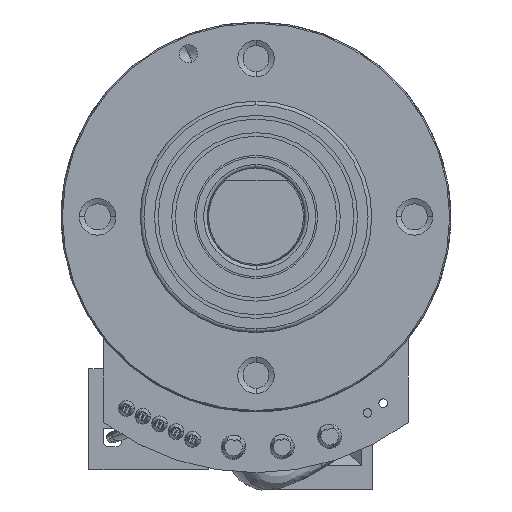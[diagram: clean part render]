
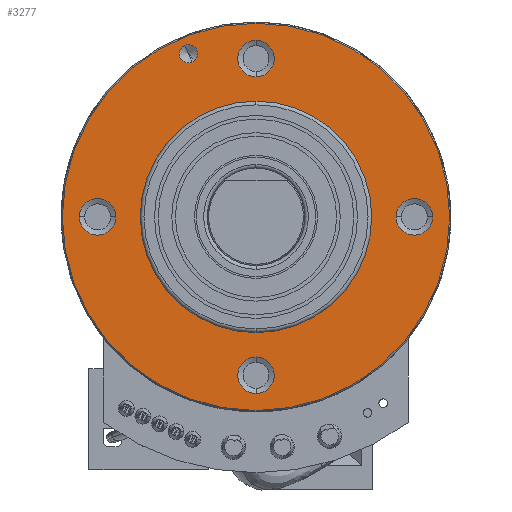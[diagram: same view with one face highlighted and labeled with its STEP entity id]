
A CAD part, left-side view. The second image highlights one B-rep face of the part: STEP entity #3277.
In plain terms, the highlighted planar face has unit normal (-1, 0, 0).
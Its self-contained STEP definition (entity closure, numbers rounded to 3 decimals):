
#3277=ADVANCED_FACE('',(#7733,#7734,#7735,#7736,#7737,#7738,#7739),#7740,.T.);
#7733=FACE_BOUND('',#13555,.T.);
#7734=FACE_BOUND('',#13556,.T.);
#7735=FACE_BOUND('',#13557,.T.);
#7736=FACE_BOUND('',#13558,.T.);
#7737=FACE_BOUND('',#13559,.T.);
#7738=FACE_OUTER_BOUND('',#13560,.T.);
#7739=FACE_BOUND('',#13561,.T.);
#7740=PLANE('',#13562);
#13555=EDGE_LOOP('',(#23389,#23390));
#13556=EDGE_LOOP('',(#23391,#23392));
#13557=EDGE_LOOP('',(#23393,#23394));
#13558=EDGE_LOOP('',(#23395,#23396));
#13559=EDGE_LOOP('',(#23397,#23398));
#13560=EDGE_LOOP('',(#23399,#23400));
#13561=EDGE_LOOP('',(#23401,#23402));
#13562=AXIS2_PLACEMENT_3D('',#23403,#23404,#23405);
#23389=ORIENTED_EDGE('',*,*,#32828,.T.);
#23390=ORIENTED_EDGE('',*,*,#32916,.T.);
#23391=ORIENTED_EDGE('',*,*,#32763,.T.);
#23392=ORIENTED_EDGE('',*,*,#32950,.T.);
#23393=ORIENTED_EDGE('',*,*,#32698,.T.);
#23394=ORIENTED_EDGE('',*,*,#32984,.T.);
#23395=ORIENTED_EDGE('',*,*,#32633,.T.);
#23396=ORIENTED_EDGE('',*,*,#33018,.T.);
#23397=ORIENTED_EDGE('',*,*,#32624,.T.);
#23398=ORIENTED_EDGE('',*,*,#33022,.T.);
#23399=ORIENTED_EDGE('',*,*,#32610,.T.);
#23400=ORIENTED_EDGE('',*,*,#33025,.T.);
#23401=ORIENTED_EDGE('',*,*,#33026,.F.);
#23402=ORIENTED_EDGE('',*,*,#32601,.F.);
#23403=CARTESIAN_POINT('',(-2.2,0.0,12.75));
#23404=DIRECTION('',(-1.0,0.0,0.0));
#23405=DIRECTION('',(0.0,0.0,1.0));
#32601=EDGE_CURVE('',#35567,#35563,#35569,.T.);
#32610=EDGE_CURVE('',#35580,#35582,#35584,.T.);
#32624=EDGE_CURVE('',#35600,#35603,#35605,.T.);
#32633=EDGE_CURVE('',#35616,#35618,#35620,.T.);
#32698=EDGE_CURVE('',#35715,#35717,#35719,.T.);
#32763=EDGE_CURVE('',#35814,#35816,#35818,.T.);
#32828=EDGE_CURVE('',#35913,#35915,#35917,.T.);
#32916=EDGE_CURVE('',#35915,#35913,#36033,.T.);
#32950=EDGE_CURVE('',#35816,#35814,#36067,.T.);
#32984=EDGE_CURVE('',#35717,#35715,#36101,.T.);
#33018=EDGE_CURVE('',#35618,#35616,#36135,.T.);
#33022=EDGE_CURVE('',#35603,#35600,#36139,.T.);
#33025=EDGE_CURVE('',#35582,#35580,#36142,.T.);
#33026=EDGE_CURVE('',#35563,#35567,#36143,.T.);
#35563=VERTEX_POINT('',#39481);
#35567=VERTEX_POINT('',#39486);
#35569=CIRCLE('',#39489,9.5);
#35580=VERTEX_POINT('',#39502);
#35582=VERTEX_POINT('',#39505);
#35584=CIRCLE('',#39508,15.9);
#35600=VERTEX_POINT('',#39528);
#35603=VERTEX_POINT('',#39532);
#35605=CIRCLE('',#39535,0.75);
#35616=VERTEX_POINT('',#39548);
#35618=VERTEX_POINT('',#39551);
#35620=CIRCLE('',#39554,1.5);
#35715=VERTEX_POINT('',#39679);
#35717=VERTEX_POINT('',#39682);
#35719=CIRCLE('',#39685,1.5);
#35814=VERTEX_POINT('',#39810);
#35816=VERTEX_POINT('',#39813);
#35818=CIRCLE('',#39816,1.5);
#35913=VERTEX_POINT('',#39941);
#35915=VERTEX_POINT('',#39944);
#35917=CIRCLE('',#39947,1.5);
#36033=CIRCLE('',#40091,1.5);
#36067=CIRCLE('',#40125,1.5);
#36101=CIRCLE('',#40159,1.5);
#36135=CIRCLE('',#40193,1.5);
#36139=CIRCLE('',#40197,0.75);
#36142=CIRCLE('',#40200,15.9);
#36143=CIRCLE('',#40201,9.5);
#39481=CARTESIAN_POINT('',(-2.2,0.0,9.5));
#39486=CARTESIAN_POINT('',(-2.2,0.,-9.5));
#39489=AXIS2_PLACEMENT_3D('',#45110,#45111,#45112);
#39502=CARTESIAN_POINT('',(-2.2,0.0,15.9));
#39505=CARTESIAN_POINT('',(-2.2,0.,-15.9));
#39508=AXIS2_PLACEMENT_3D('',#45123,#45124,#45125);
#39528=CARTESIAN_POINT('',(-2.2,5.836,14.089));
#39532=CARTESIAN_POINT('',(-2.2,5.262,12.703));
#39535=AXIS2_PLACEMENT_3D('',#45144,#45145,#45146);
#39548=CARTESIAN_POINT('',(-2.2,0.0,-14.5));
#39551=CARTESIAN_POINT('',(-2.2,0.,-11.5));
#39554=AXIS2_PLACEMENT_3D('',#45157,#45158,#45159);
#39679=CARTESIAN_POINT('',(-2.2,0.0,14.5));
#39682=CARTESIAN_POINT('',(-2.2,0.,11.5));
#39685=AXIS2_PLACEMENT_3D('',#45240,#45241,#45242);
#39810=CARTESIAN_POINT('',(-2.2,-14.5,0.0));
#39813=CARTESIAN_POINT('',(-2.2,-11.5,0.));
#39816=AXIS2_PLACEMENT_3D('',#45323,#45324,#45325);
#39941=CARTESIAN_POINT('',(-2.2,14.5,0.0));
#39944=CARTESIAN_POINT('',(-2.2,11.5,0.));
#39947=AXIS2_PLACEMENT_3D('',#45406,#45407,#45408);
#40091=AXIS2_PLACEMENT_3D('',#45524,#45525,#45526);
#40125=AXIS2_PLACEMENT_3D('',#45575,#45576,#45577);
#40159=AXIS2_PLACEMENT_3D('',#45626,#45627,#45628);
#40193=AXIS2_PLACEMENT_3D('',#45677,#45678,#45679);
#40197=AXIS2_PLACEMENT_3D('',#45683,#45684,#45685);
#40200=AXIS2_PLACEMENT_3D('',#45686,#45687,#45688);
#40201=AXIS2_PLACEMENT_3D('',#45689,#45690,#45691);
#45110=CARTESIAN_POINT('',(-2.2,0.0,0.0));
#45111=DIRECTION('',(-1.0,0.0,0.0));
#45112=DIRECTION('',(0.0,0.0,1.0));
#45123=CARTESIAN_POINT('',(-2.2,0.0,0.0));
#45124=DIRECTION('',(-1.0,0.0,0.0));
#45125=DIRECTION('',(0.0,0.0,1.0));
#45144=CARTESIAN_POINT('',(-2.2,5.549,13.396));
#45145=DIRECTION('',(1.0,0.0,-0.0));
#45146=DIRECTION('',(0.0,0.383,0.924));
#45157=CARTESIAN_POINT('',(-2.2,0.0,-13.0));
#45158=DIRECTION('',(1.0,-0.0,0.0));
#45159=DIRECTION('',(0.0,0.0,-1.0));
#45240=CARTESIAN_POINT('',(-2.2,0.0,13.0));
#45241=DIRECTION('',(1.0,0.0,-0.0));
#45242=DIRECTION('',(0.0,0.0,1.0));
#45323=CARTESIAN_POINT('',(-2.2,-13.0,0.0));
#45324=DIRECTION('',(1.0,0.0,-0.0));
#45325=DIRECTION('',(0.0,-1.0,0.0));
#45406=CARTESIAN_POINT('',(-2.2,13.0,0.0));
#45407=DIRECTION('',(1.0,0.0,-0.0));
#45408=DIRECTION('',(0.0,1.0,0.0));
#45524=CARTESIAN_POINT('',(-2.2,13.0,0.0));
#45525=DIRECTION('',(1.0,0.0,-0.0));
#45526=DIRECTION('',(0.0,1.0,0.0));
#45575=CARTESIAN_POINT('',(-2.2,-13.0,0.0));
#45576=DIRECTION('',(1.0,0.0,-0.0));
#45577=DIRECTION('',(0.0,-1.0,0.0));
#45626=CARTESIAN_POINT('',(-2.2,0.0,13.0));
#45627=DIRECTION('',(1.0,0.0,-0.0));
#45628=DIRECTION('',(0.0,0.0,1.0));
#45677=CARTESIAN_POINT('',(-2.2,0.0,-13.0));
#45678=DIRECTION('',(1.0,-0.0,0.0));
#45679=DIRECTION('',(0.0,0.0,-1.0));
#45683=CARTESIAN_POINT('',(-2.2,5.549,13.396));
#45684=DIRECTION('',(1.0,0.0,-0.0));
#45685=DIRECTION('',(0.0,0.383,0.924));
#45686=CARTESIAN_POINT('',(-2.2,0.0,0.0));
#45687=DIRECTION('',(-1.0,0.0,0.0));
#45688=DIRECTION('',(0.0,0.0,1.0));
#45689=CARTESIAN_POINT('',(-2.2,0.0,0.0));
#45690=DIRECTION('',(-1.0,0.0,0.0));
#45691=DIRECTION('',(0.0,0.0,1.0));
